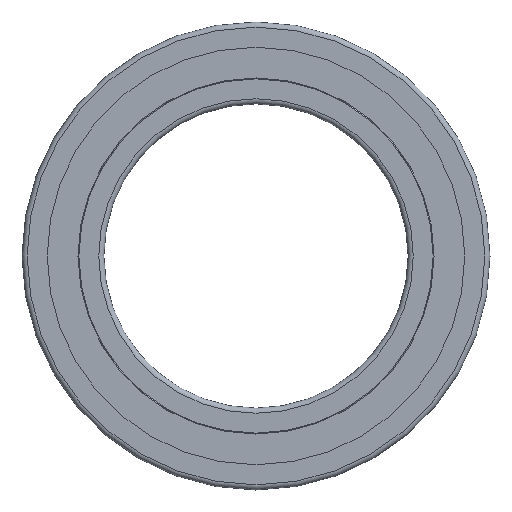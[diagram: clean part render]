
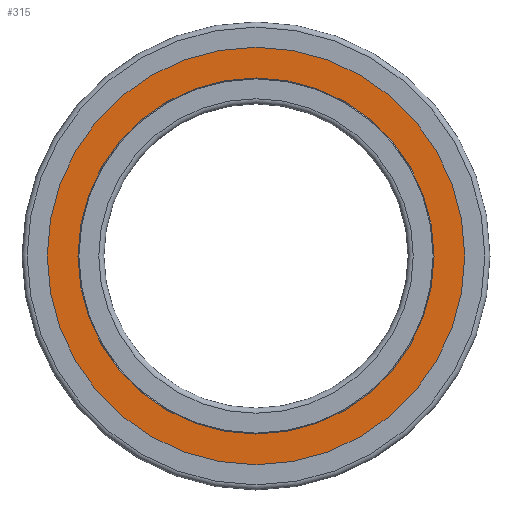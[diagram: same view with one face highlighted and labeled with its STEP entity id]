
A CAD part, left-side view. The second image highlights one B-rep face of the part: STEP entity #315.
In plain terms, the highlighted planar face has unit normal (-1, 0, 0).
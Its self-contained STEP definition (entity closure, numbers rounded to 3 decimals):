
#258=PLANE('',#1153);
#315=ADVANCED_FACE('',(#412,#413),#258,.F.);
#412=FACE_BOUND('',#601,.T.);
#413=FACE_BOUND('',#602,.T.);
#601=EDGE_LOOP('',(#765));
#602=EDGE_LOOP('',(#766));
#765=ORIENTED_EDGE('',*,*,#1028,.F.);
#766=ORIENTED_EDGE('',*,*,#1026,.T.);
#919=VERTEX_POINT('',#1503);
#921=VERTEX_POINT('',#1508);
#1026=EDGE_CURVE('',#919,#919,#1108,.T.);
#1028=EDGE_CURVE('',#921,#921,#1110,.T.);
#1108=CIRCLE('',#1149,44.6);
#1110=CIRCLE('',#1152,38.05);
#1149=AXIS2_PLACEMENT_3D('',#1502,#1281,#1282);
#1152=AXIS2_PLACEMENT_3D('',#1507,#1287,#1288);
#1153=AXIS2_PLACEMENT_3D('',#1509,#1289,#1290);
#1281=DIRECTION('',(-1.,0.,0.));
#1282=DIRECTION('',(0.,0.,1.));
#1287=DIRECTION('',(-1.,0.,0.));
#1288=DIRECTION('',(0.,0.,1.));
#1289=DIRECTION('',(1.,0.,0.));
#1290=DIRECTION('',(0.,0.,-1.));
#1502=CARTESIAN_POINT('',(0.1,0.,0.));
#1503=CARTESIAN_POINT('',(0.1,0.,44.6));
#1507=CARTESIAN_POINT('',(0.1,0.,0.));
#1508=CARTESIAN_POINT('',(0.1,0.,38.05));
#1509=CARTESIAN_POINT('',(0.1,0.,44.6));
